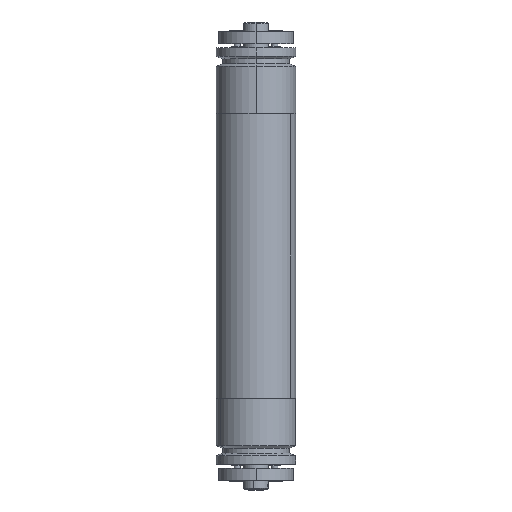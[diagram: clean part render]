
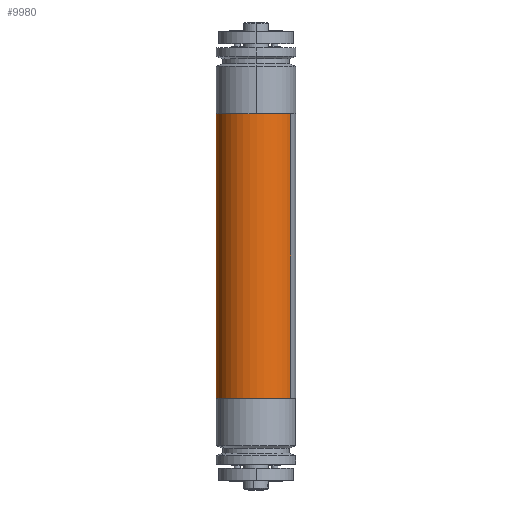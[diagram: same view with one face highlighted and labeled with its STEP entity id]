
A CAD part, left-side view. The second image highlights one B-rep face of the part: STEP entity #9980.
In plain terms, the highlighted cylindrical face has radius 48 mm (diameter 96 mm), a partial arc.
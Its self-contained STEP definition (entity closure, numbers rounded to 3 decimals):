
#517 = AXIS2_PLACEMENT_3D ( 'NONE', #1990, #8461, #2917 ) ;
#679 = AXIS2_PLACEMENT_3D ( 'NONE', #11891, #14104, #720 ) ;
#720 = DIRECTION ( 'NONE',  ( 0., 0., -1. ) ) ;
#865 = CARTESIAN_POINT ( 'NONE',  ( -171.5, 0., -48. ) ) ;
#922 = DIRECTION ( 'NONE',  ( 0., 0., -1. ) ) ;
#1361 = DIRECTION ( 'NONE',  ( -1., 0., 0. ) ) ;
#1990 = CARTESIAN_POINT ( 'NONE',  ( 171.5, 0., 0. ) ) ;
#2126 = EDGE_CURVE ( 'NONE', #5584, #5329, #8698, .T. ) ;
#2598 = CARTESIAN_POINT ( 'NONE',  ( -171.5, 0., 48. ) ) ;
#2917 = DIRECTION ( 'NONE',  ( 0., 0., 1. ) ) ;
#3175 = ORIENTED_EDGE ( 'NONE', *, *, #5330, .T. ) ;
#3411 = CYLINDRICAL_SURFACE ( 'NONE', #517, 48. ) ;
#3537 = VECTOR ( 'NONE', #9893, 1000. ) ;
#3678 = VECTOR ( 'NONE', #1361, 1000. ) ;
#3885 = CIRCLE ( 'NONE', #679, 48. ) ;
#4449 = ORIENTED_EDGE ( 'NONE', *, *, #7301, .F. ) ;
#4731 = EDGE_CURVE ( 'NONE', #11710, #12004, #5594, .T. ) ;
#5313 = CARTESIAN_POINT ( 'NONE',  ( 171.5, 0., 48. ) ) ;
#5329 = VERTEX_POINT ( 'NONE', #865 ) ;
#5330 = EDGE_CURVE ( 'NONE', #12004, #5329, #3885, .T. ) ;
#5446 = DIRECTION ( 'NONE',  ( 1., 0., 0. ) ) ;
#5584 = VERTEX_POINT ( 'NONE', #9128 ) ;
#5594 = LINE ( 'NONE', #5313, #3537 ) ;
#7092 = EDGE_LOOP ( 'NONE', ( #9998, #4449, #13424, #3175 ) ) ;
#7287 = CIRCLE ( 'NONE', #9011, 48. ) ;
#7301 = EDGE_CURVE ( 'NONE', #11710, #5584, #7287, .T. ) ;
#7594 = CARTESIAN_POINT ( 'NONE',  ( 171.5, 0., 0. ) ) ;
#8211 = FACE_OUTER_BOUND ( 'NONE', #7092, .T. ) ;
#8461 = DIRECTION ( 'NONE',  ( -1., 0., 0. ) ) ;
#8698 = LINE ( 'NONE', #10449, #3678 ) ;
#9011 = AXIS2_PLACEMENT_3D ( 'NONE', #7594, #5446, #922 ) ;
#9128 = CARTESIAN_POINT ( 'NONE',  ( 171.5, 0., -48. ) ) ;
#9893 = DIRECTION ( 'NONE',  ( -1., 0., 0. ) ) ;
#9980 = ADVANCED_FACE ( 'NONE', ( #8211 ), #3411, .T. ) ;
#9998 = ORIENTED_EDGE ( 'NONE', *, *, #2126, .F. ) ;
#10449 = CARTESIAN_POINT ( 'NONE',  ( 171.5, 0., -48. ) ) ;
#11050 = CARTESIAN_POINT ( 'NONE',  ( 171.5, 0., 48. ) ) ;
#11710 = VERTEX_POINT ( 'NONE', #11050 ) ;
#11891 = CARTESIAN_POINT ( 'NONE',  ( -171.5, 0., 0. ) ) ;
#12004 = VERTEX_POINT ( 'NONE', #2598 ) ;
#13424 = ORIENTED_EDGE ( 'NONE', *, *, #4731, .T. ) ;
#14104 = DIRECTION ( 'NONE',  ( 1., 0., 0. ) ) ;
